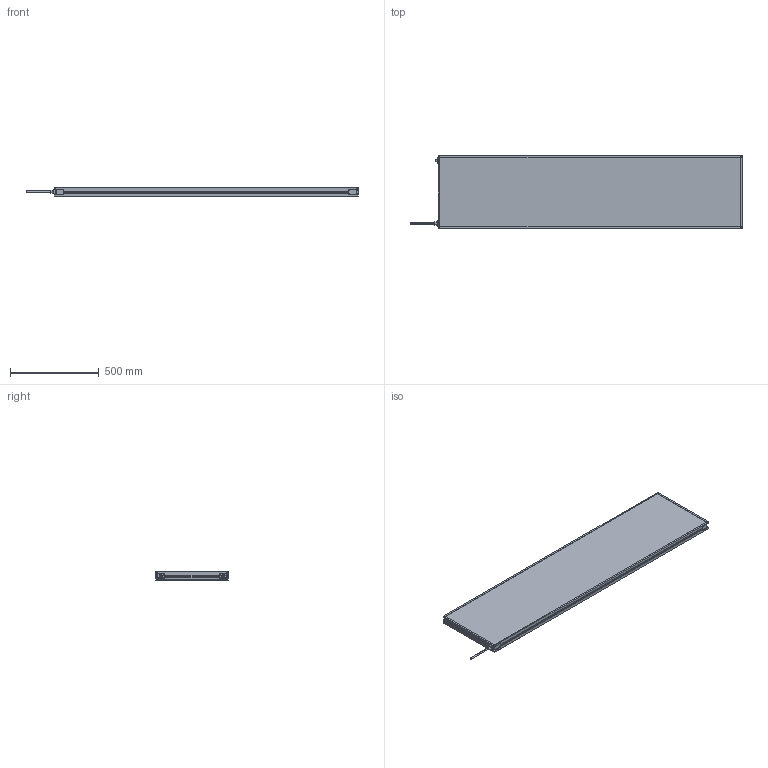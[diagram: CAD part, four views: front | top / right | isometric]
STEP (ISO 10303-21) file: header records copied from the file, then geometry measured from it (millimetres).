
FILE_DESCRIPTION (( 'STEP AP214' ), '1' );
FILE_NAME ('MBACK-xxxx-xxx-M1A2_CLIENT400x1700.STEP', '2022-04-01T11:37:16', ( '' ), ( '' ), 'SwSTEP 2.0', 'SolidWorks 2020', '' );
FILE_SCHEMA (( 'AUTOMOTIVE_DESIGN' ));
Length unit declared in the file: millimetre
Products named in the file (1): MBACK-xxxx-xxx-M1A2_CLIENT400x1700
Bounding box: 1867.4 x 408 x 45.5 mm (x, y, z)
Volume: 29014157.4 mm3; surface area: 1680831.7 mm2
Topology: 1 solids, 1 shells, 470 faces, 1210 edges, 804 vertices
Faces by surface type: plane 265, cylinder 117, bspline 80, cone 8
Entity records: 18046 total; most frequent: CARTESIAN_POINT 6837, ORIENTED_EDGE 2420, DIRECTION 2082, EDGE_CURVE 1210, VERTEX_POINT 804, LINE 800, VECTOR 800, AXIS2_PLACEMENT_3D 641
